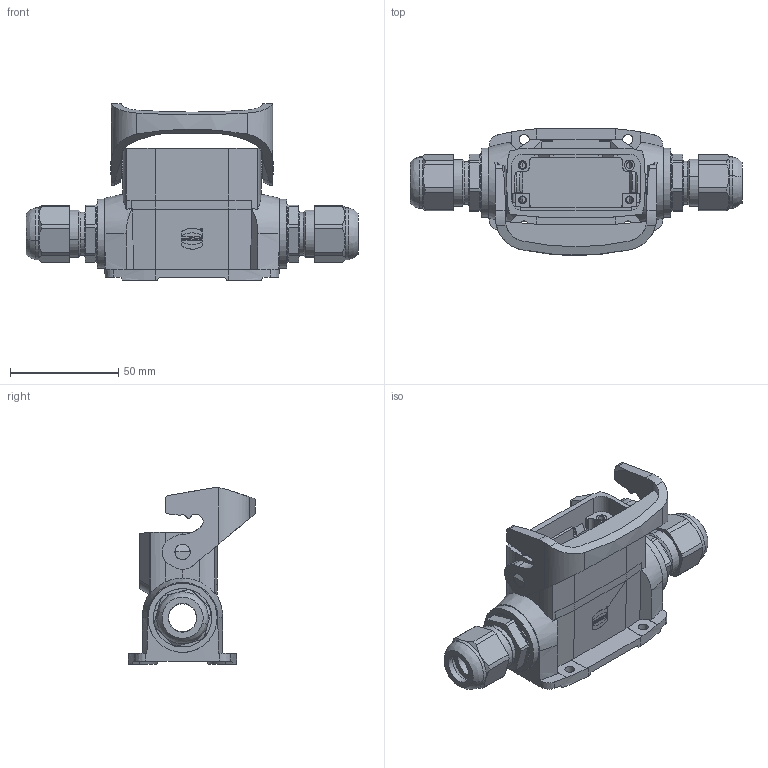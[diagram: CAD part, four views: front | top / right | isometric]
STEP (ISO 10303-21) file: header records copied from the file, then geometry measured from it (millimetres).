
FILE_DESCRIPTION(/* description */ (''),/* implementation_level */ '2;1');
FILE_NAME(/* name */ '100644856ugm000_d.stp',/* time_stamp */ '2022-03-11T22:43:14+01:00',/* author */ (''),/* organization */ (''),/* preprocessor_version */ 'ST-DEVELOPER v16.7',/* originating_system */ 'SIEMENS PLM Software NX 1911',/* authorisation */ '');
FILE_SCHEMA (('AUTOMOTIVE_DESIGN { 1 0 10303 214 3 1 1 1 }'));
Length unit declared in the file: millimetre
Products named in the file (1): 100644856ugm000_d
Bounding box: 153.6 x 58.77 x 81.7 mm (x, y, z)
Volume: 103828.9 mm3; surface area: 51905.9 mm2
Topology: 2 solids, 2 shells, 759 faces, 2406 edges, 1750 vertices
Faces by surface type: plane 502, cylinder 146, cone 75, bspline 22, extrusion 13, torus 1
Full cylindrical faces by diameter (mm): 3 x4, 3.5 x2, 4 x1, 4.6 x4, 4.75 x1, 7 x2, 7.15 x2, 20 x2, 32 x2
Entity records: 33866 total; most frequent: CARTESIAN_POINT 7764, ORIENTED_EDGE 4552, DIRECTION 3820, EDGE_CURVE 2276, VERTEX_POINT 1566, VECTOR 1460, LINE 1447, AXIS2_PLACEMENT_3D 1180
